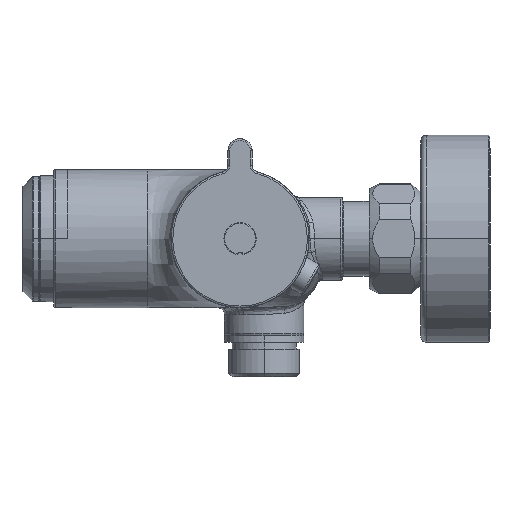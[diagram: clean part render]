
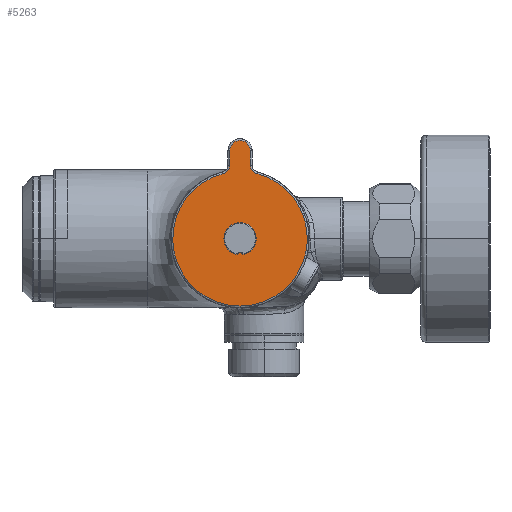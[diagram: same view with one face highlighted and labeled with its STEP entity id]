
A CAD part, left-side view. The second image highlights one B-rep face of the part: STEP entity #5263.
In plain terms, the highlighted planar face has unit normal (-1, 0, 0).
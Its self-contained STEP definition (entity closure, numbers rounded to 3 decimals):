
#5=DIRECTION('',(0.,0.,1.));
#6=VECTOR('',#5,4.199);
#7=CARTESIAN_POINT('',(-139.,73.063,21.301));
#8=LINE('',#7,#6);
#93=CARTESIAN_POINT('',(-139.,81.563,21.301));
#94=DIRECTION('',(-1.,0.,0.));
#95=DIRECTION('',(0.,-0.25,-0.968));
#96=AXIS2_PLACEMENT_3D('',#93,#94,#95);
#98=CARTESIAN_POINT('',(-139.,76.063,25.5));
#99=DIRECTION('',(1.,0.,0.));
#100=DIRECTION('',(0.,1.,0.));
#101=AXIS2_PLACEMENT_3D('',#98,#99,#100);
#103=CARTESIAN_POINT('',(-139.,70.563,21.301));
#104=DIRECTION('',(-1.,0.,0.));
#105=DIRECTION('',(0.,1.,0.));
#106=AXIS2_PLACEMENT_3D('',#103,#104,#105);
#108=CARTESIAN_POINT('',(-139.,76.063,0.));
#109=DIRECTION('',(1.,0.,0.));
#110=DIRECTION('',(0.,-0.25,0.968));
#111=AXIS2_PLACEMENT_3D('',#108,#109,#110);
#191=DIRECTION('',(0.,0.,-1.));
#192=VECTOR('',#191,4.199);
#193=CARTESIAN_POINT('',(-139.,79.063,25.5));
#194=LINE('',#193,#192);
#4264=CARTESIAN_POINT('',(-138.997,75.377,
-4.469));
#4265=CARTESIAN_POINT('',(-138.997,75.381,
-4.459));
#4266=CARTESIAN_POINT('',(-139.003,75.395,
-4.428));
#4267=CARTESIAN_POINT('',(-138.999,75.424,
-4.371));
#4268=CARTESIAN_POINT('',(-139.,75.463,
-4.307));
#4269=CARTESIAN_POINT('',(-139.,75.508,
-4.247));
#4270=CARTESIAN_POINT('',(-139.,75.557,
-4.192));
#4271=CARTESIAN_POINT('',(-139.,75.611,
-4.142));
#4272=CARTESIAN_POINT('',(-139.,75.668,
-4.098));
#4273=CARTESIAN_POINT('',(-139.,75.729,
-4.06));
#4274=CARTESIAN_POINT('',(-139.,75.793,
-4.028));
#4275=CARTESIAN_POINT('',(-139.,75.859,
-4.003));
#4276=CARTESIAN_POINT('',(-139.,75.926,
-3.985));
#4277=CARTESIAN_POINT('',(-139.,75.996,
-3.975));
#4278=CARTESIAN_POINT('',(-139.,76.066,
-3.971));
#4279=CARTESIAN_POINT('',(-139.,76.136,
-3.975));
#4280=CARTESIAN_POINT('',(-139.,76.205,
-3.986));
#4281=CARTESIAN_POINT('',(-139.,76.272,
-4.005));
#4282=CARTESIAN_POINT('',(-139.,76.338,
-4.03));
#4283=CARTESIAN_POINT('',(-139.,76.401,
-4.062));
#4284=CARTESIAN_POINT('',(-139.,76.461,
-4.1));
#4285=CARTESIAN_POINT('',(-139.,76.517,
-4.145));
#4286=CARTESIAN_POINT('',(-139.,76.57,
-4.194));
#4287=CARTESIAN_POINT('',(-139.,76.619,
-4.249));
#4288=CARTESIAN_POINT('',(-139.,76.663,
-4.308));
#4289=CARTESIAN_POINT('',(-138.999,76.702,
-4.371));
#4290=CARTESIAN_POINT('',(-139.003,76.731,
-4.427));
#4291=CARTESIAN_POINT('',(-138.997,76.744,
-4.459));
#4292=CARTESIAN_POINT('',(-138.997,76.749,
-4.469));
#4300=CARTESIAN_POINT('',(-138.997,76.749,
-4.469));
#4301=CARTESIAN_POINT('',(-138.997,76.761,
-4.498));
#4302=CARTESIAN_POINT('',(-139.001,76.777,
-4.547));
#4303=CARTESIAN_POINT('',(-139.,76.825,
-4.596));
#4304=CARTESIAN_POINT('',(-139.,76.864,
-4.604));
#4305=CARTESIAN_POINT('',(-139.,76.886,
-4.6));
#4319=CARTESIAN_POINT('',(-139.,76.063,0.));
#4320=DIRECTION('',(-1.,0.,0.));
#4321=DIRECTION('',(0.,-0.176,-0.984));
#4322=AXIS2_PLACEMENT_3D('',#4319,#4320,#4321);
#4324=CARTESIAN_POINT('',(-139.,75.239,
-4.6));
#4325=CARTESIAN_POINT('',(-139.,75.261,
-4.604));
#4326=CARTESIAN_POINT('',(-139.,75.302,
-4.596));
#4327=CARTESIAN_POINT('',(-139.001,75.349,
-4.546));
#4328=CARTESIAN_POINT('',(-138.997,75.365,
-4.498));
#4329=CARTESIAN_POINT('',(-138.997,75.377,
-4.469));
#4380=CARTESIAN_POINT('',(-139.,73.063,21.301));
#4381=VERTEX_POINT('',#4380);
#4382=CARTESIAN_POINT('',(-139.,73.063,25.5));
#4383=VERTEX_POINT('',#4382);
#4386=CARTESIAN_POINT('',(-139.,71.188,18.881));
#4387=VERTEX_POINT('',#4386);
#4403=CARTESIAN_POINT('',(-139.,79.063,25.5));
#4404=VERTEX_POINT('',#4403);
#4405=CARTESIAN_POINT('',(-139.,80.938,18.881));
#4406=CARTESIAN_POINT('',(-139.,79.063,21.301));
#4407=VERTEX_POINT('',#4405);
#4408=VERTEX_POINT('',#4406);
#5068=VERTEX_POINT('',#4264);
#5069=VERTEX_POINT('',#4292);
#5070=VERTEX_POINT('',#4324);
#5071=VERTEX_POINT('',#4305);
#5237=CARTESIAN_POINT('',(-139.,55.663,-20.49));
#5238=DIRECTION('',(-1.,0.,0.));
#5239=DIRECTION('',(0.,1.,0.));
#5240=AXIS2_PLACEMENT_3D('',#5237,#5238,#5239);
#5241=PLANE('',#5240);
#5243=ORIENTED_EDGE('',*,*,#5242,.T.);
#5245=ORIENTED_EDGE('',*,*,#5244,.F.);
#5246=ORIENTED_EDGE('',*,*,#5230,.T.);
#5247=ORIENTED_EDGE('',*,*,#5110,.F.);
#5248=ORIENTED_EDGE('',*,*,#5126,.T.);
#5250=ORIENTED_EDGE('',*,*,#5249,.T.);
#5251=EDGE_LOOP('',(#5243,#5245,#5246,#5247,#5248,#5250));
#5252=FACE_OUTER_BOUND('',#5251,.F.);
#5254=ORIENTED_EDGE('',*,*,#5253,.F.);
#5256=ORIENTED_EDGE('',*,*,#5255,.F.);
#5258=ORIENTED_EDGE('',*,*,#5257,.T.);
#5260=ORIENTED_EDGE('',*,*,#5259,.F.);
#5261=EDGE_LOOP('',(#5254,#5256,#5258,#5260));
#5262=FACE_BOUND('',#5261,.F.);
#5263=ADVANCED_FACE('',(#5252,#5262),#5241,.T.);
#97=CIRCLE('',#96,2.5);
#102=CIRCLE('',#101,3.);
#107=CIRCLE('',#106,2.5);
#112=CIRCLE('',#111,19.5);
#4293=B_SPLINE_CURVE_WITH_KNOTS('',3,(#4264,#4265,#4266,#4267,#4268,#4269,#4270,
#4271,#4272,#4273,#4274,#4275,#4276,#4277,#4278,#4279,#4280,#4281,#4282,#4283,
#4284,#4285,#4286,#4287,#4288,#4289,#4290,#4291,#4292),.UNSPECIFIED.,.F.,.F.,(4,
1,1,1,1,1,1,1,1,1,1,1,1,1,1,1,1,1,1,1,1,1,1,1,1,1,4),(0.,0.019,
0.06,0.102,0.143,0.184,
0.224,0.264,0.304,0.344,
0.383,0.423,0.462,0.502,
0.541,0.58,0.62,0.659,
0.698,0.738,0.778,0.818,
0.858,0.899,0.94,0.981,1.),
.UNSPECIFIED.);
#4306=B_SPLINE_CURVE_WITH_KNOTS('',3,(#4300,#4301,#4302,#4303,#4304,#4305),
.UNSPECIFIED.,.F.,.F.,(4,1,1,4),(0.,0.333,0.667,1.),
.UNSPECIFIED.);
#4323=CIRCLE('',#4322,4.673);
#4330=B_SPLINE_CURVE_WITH_KNOTS('',3,(#4324,#4325,#4326,#4327,#4328,#4329),
.UNSPECIFIED.,.F.,.F.,(4,1,1,4),(0.,0.333,0.667,1.),
.UNSPECIFIED.);
#5110=EDGE_CURVE('',#4381,#4383,#8,.T.);
#5126=EDGE_CURVE('',#4381,#4387,#107,.T.);
#5230=EDGE_CURVE('',#4404,#4383,#102,.T.);
#5242=EDGE_CURVE('',#4407,#4408,#97,.T.);
#5244=EDGE_CURVE('',#4404,#4408,#194,.T.);
#5249=EDGE_CURVE('',#4387,#4407,#112,.T.);
#5253=EDGE_CURVE('',#5068,#5069,#4293,.T.);
#5255=EDGE_CURVE('',#5070,#5068,#4330,.T.);
#5257=EDGE_CURVE('',#5070,#5071,#4323,.T.);
#5259=EDGE_CURVE('',#5069,#5071,#4306,.T.);
